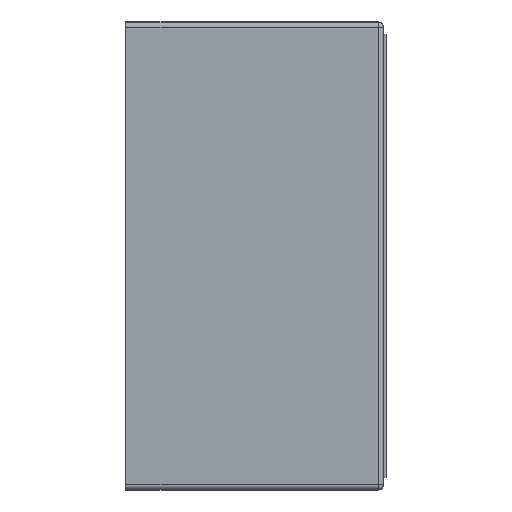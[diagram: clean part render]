
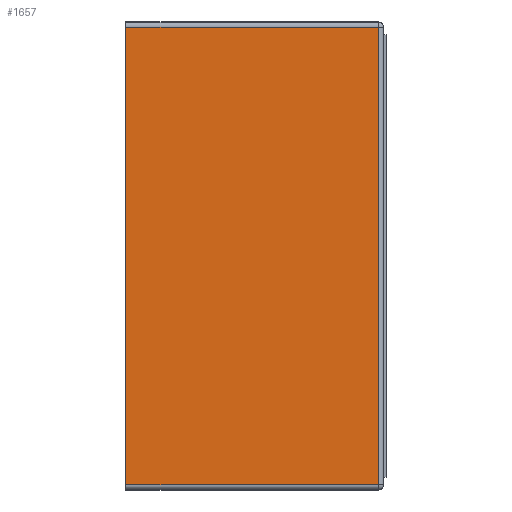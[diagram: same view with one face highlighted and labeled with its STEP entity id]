
A CAD part, left-side view. The second image highlights one B-rep face of the part: STEP entity #1657.
In plain terms, the highlighted planar face has unit normal (-1, 0, 0).
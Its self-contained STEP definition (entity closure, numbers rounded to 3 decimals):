
#149 = LINE ( 'NONE', #259, #1636 ) ;
#259 = CARTESIAN_POINT ( 'NONE',  ( -85., 0., -46.5 ) ) ;
#798 = VERTEX_POINT ( 'NONE', #5673 ) ;
#941 = ORIENTED_EDGE ( 'NONE', *, *, #6855, .T. ) ;
#1636 = VECTOR ( 'NONE', #5353, 1000. ) ;
#1657 = ADVANCED_FACE ( 'NONE', ( #4578 ), #6322, .T. ) ;
#1960 = DIRECTION ( 'NONE',  ( 0., -1., 0. ) ) ;
#1992 = CARTESIAN_POINT ( 'NONE',  ( -85., -51.2, -45.5 ) ) ;
#2003 = DIRECTION ( 'NONE',  ( -1., 0., 0. ) ) ;
#2300 = CARTESIAN_POINT ( 'NONE',  ( -85., -50.2, 45.5 ) ) ;
#2444 = DIRECTION ( 'NONE',  ( 0., 1., 0. ) ) ;
#2524 = VERTEX_POINT ( 'NONE', #7326 ) ;
#2601 = ORIENTED_EDGE ( 'NONE', *, *, #7492, .F. ) ;
#2726 = DIRECTION ( 'NONE',  ( 0., 0., 1. ) ) ;
#2830 = ORIENTED_EDGE ( 'NONE', *, *, #6021, .T. ) ;
#3147 = LINE ( 'NONE', #2300, #6749 ) ;
#3175 = CARTESIAN_POINT ( 'NONE',  ( -85., -51.2, 45.5 ) ) ;
#3713 = LINE ( 'NONE', #3175, #7303 ) ;
#3928 = ORIENTED_EDGE ( 'NONE', *, *, #5668, .T. ) ;
#4254 = EDGE_LOOP ( 'NONE', ( #2830, #3928, #941, #2601 ) ) ;
#4578 = FACE_OUTER_BOUND ( 'NONE', #4254, .T. ) ;
#5353 = DIRECTION ( 'NONE',  ( 0., 0., 1. ) ) ;
#5587 = CARTESIAN_POINT ( 'NONE',  ( -85., -51.2, -46.5 ) ) ;
#5668 = EDGE_CURVE ( 'NONE', #5994, #6803, #3147, .T. ) ;
#5673 = CARTESIAN_POINT ( 'NONE',  ( -85., 0., 45.5 ) ) ;
#5954 = CARTESIAN_POINT ( 'NONE',  ( -85., -50.2, 45.5 ) ) ;
#5994 = VERTEX_POINT ( 'NONE', #7708 ) ;
#6021 = EDGE_CURVE ( 'NONE', #2524, #5994, #7427, .T. ) ;
#6322 = PLANE ( 'NONE',  #6843 ) ;
#6749 = VECTOR ( 'NONE', #7363, 1000. ) ;
#6803 = VERTEX_POINT ( 'NONE', #5954 ) ;
#6843 = AXIS2_PLACEMENT_3D ( 'NONE', #5587, #2003, #2726 ) ;
#6855 = EDGE_CURVE ( 'NONE', #6803, #798, #3713, .T. ) ;
#7303 = VECTOR ( 'NONE', #2444, 1000. ) ;
#7326 = CARTESIAN_POINT ( 'NONE',  ( -85., 0., -45.5 ) ) ;
#7363 = DIRECTION ( 'NONE',  ( 0., 0., 1. ) ) ;
#7427 = LINE ( 'NONE', #1992, #7657 ) ;
#7492 = EDGE_CURVE ( 'NONE', #2524, #798, #149, .T. ) ;
#7657 = VECTOR ( 'NONE', #1960, 1000. ) ;
#7708 = CARTESIAN_POINT ( 'NONE',  ( -85., -50.2, -45.5 ) ) ;
